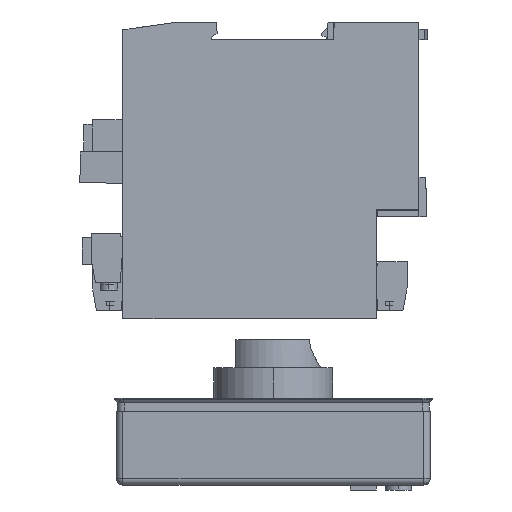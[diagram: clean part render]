
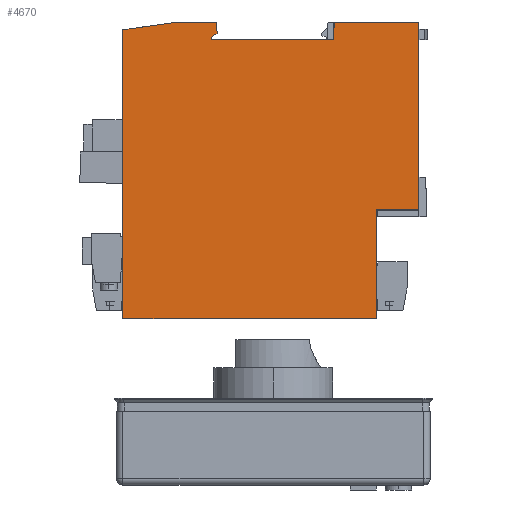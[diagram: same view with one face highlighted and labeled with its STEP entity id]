
A CAD part, left-side view. The second image highlights one B-rep face of the part: STEP entity #4670.
In plain terms, the highlighted planar face has unit normal (-1, 0, 0).
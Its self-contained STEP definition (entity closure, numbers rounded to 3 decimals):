
#1565=DIRECTION('',(0.,0.,-1.));
#1566=VECTOR('',#1565,57.32);
#1567=CARTESIAN_POINT('',(172.343,12.24,
-0.171));
#1568=LINE('',#1567,#1566);
#1569=DIRECTION('',(0.,1.,0.));
#1570=VECTOR('',#1569,12.974);
#1571=CARTESIAN_POINT('',(172.344,12.252,-57.491));
#1572=LINE('',#1571,#1570);
#1573=DIRECTION('',(0.,0.,-1.));
#1574=VECTOR('',#1573,33.43);
#1575=CARTESIAN_POINT('',(172.343,25.226,-57.491));
#1576=LINE('',#1575,#1574);
#1577=DIRECTION('',(0.,1.,0.));
#1578=VECTOR('',#1577,77.5);
#1579=CARTESIAN_POINT('',(172.343,25.226,-90.921));
#1580=LINE('',#1579,#1578);
#1581=DIRECTION('',(0.,0.,1.));
#1582=VECTOR('',#1581,88.361);
#1583=CARTESIAN_POINT('',(172.343,102.726,-90.921));
#1584=LINE('',#1583,#1582);
#1585=DIRECTION('',(0.,-0.99,0.139));
#1586=VECTOR('',#1585,17.167);
#1587=CARTESIAN_POINT('',(172.343,102.726,-2.56));
#1588=LINE('',#1587,#1586);
#1589=DIRECTION('',(0.,-1.,0.));
#1590=VECTOR('',#1589,11.7);
#1591=CARTESIAN_POINT('',(172.343,85.726,
-0.171));
#1592=LINE('',#1591,#1590);
#1593=DIRECTION('',(0.,-0.019,-1.));
#1594=VECTOR('',#1593,3.424);
#1595=CARTESIAN_POINT('',(172.343,74.026,
-0.171));
#1596=LINE('',#1595,#1594);
#1597=DIRECTION('',(0.,0.819,-0.574));
#1598=VECTOR('',#1597,2.191);
#1599=CARTESIAN_POINT('',(172.343,73.96,-3.595));
#1600=LINE('',#1599,#1598);
#1601=DIRECTION('',(0.,-0.035,-0.999));
#1602=VECTOR('',#1601,0.82);
#1603=CARTESIAN_POINT('',(172.343,75.754,-4.851));
#1604=LINE('',#1603,#1602);
#1605=DIRECTION('',(0.,-1.,0.));
#1606=VECTOR('',#1605,37.5);
#1607=CARTESIAN_POINT('',(172.343,75.726,-5.671));
#1608=LINE('',#1607,#1606);
#1609=DIRECTION('',(0.,0.,1.));
#1610=VECTOR('',#1609,2.9);
#1611=CARTESIAN_POINT('',(172.343,38.226,-5.671));
#1612=LINE('',#1611,#1610);
#1613=DIRECTION('',(0.,-0.017,1.));
#1614=VECTOR('',#1613,2.6);
#1615=CARTESIAN_POINT('',(172.343,38.226,-2.771));
#1616=LINE('',#1615,#1614);
#1617=DIRECTION('',(0.,-1.,0.));
#1618=VECTOR('',#1617,25.942);
#1619=CARTESIAN_POINT('',(172.343,38.182,
-0.171));
#1620=LINE('',#1619,#1618);
#2359=CARTESIAN_POINT('',(172.343,25.226,-57.491));
#2360=CARTESIAN_POINT('',(172.343,25.226,-90.921));
#2361=VERTEX_POINT('',#2359);
#2362=VERTEX_POINT('',#2360);
#2363=CARTESIAN_POINT('',(172.343,102.726,-90.921));
#2364=VERTEX_POINT('',#2363);
#2365=CARTESIAN_POINT('',(172.343,102.726,-2.56));
#2366=VERTEX_POINT('',#2365);
#2367=CARTESIAN_POINT('',(172.343,85.726,
-0.171));
#2368=VERTEX_POINT('',#2367);
#2369=CARTESIAN_POINT('',(172.343,74.026,
-0.171));
#2370=VERTEX_POINT('',#2369);
#2371=CARTESIAN_POINT('',(172.343,73.96,-3.595));
#2372=VERTEX_POINT('',#2371);
#2373=CARTESIAN_POINT('',(172.343,75.754,-4.851));
#2374=VERTEX_POINT('',#2373);
#2375=CARTESIAN_POINT('',(172.343,75.726,-5.671));
#2376=VERTEX_POINT('',#2375);
#2377=CARTESIAN_POINT('',(172.343,38.226,-5.671));
#2378=VERTEX_POINT('',#2377);
#2379=CARTESIAN_POINT('',(172.343,38.226,-2.771));
#2380=VERTEX_POINT('',#2379);
#2381=CARTESIAN_POINT('',(172.343,38.182,
-0.171));
#2382=VERTEX_POINT('',#2381);
#2383=CARTESIAN_POINT('',(172.343,12.24,
-0.171));
#2384=VERTEX_POINT('',#2383);
#2655=CARTESIAN_POINT('',(172.344,12.252,-57.491));
#2656=VERTEX_POINT('',#2655);
#4649=CARTESIAN_POINT('',(172.343,57.476,-29.371));
#4650=DIRECTION('',(1.,0.,0.));
#4651=DIRECTION('',(0.,0.,-1.));
#4652=AXIS2_PLACEMENT_3D('',#4649,#4650,#4651);
#4653=PLANE('',#4652);
#4654=ORIENTED_EDGE('',*,*,#3082,.T.);
#4655=ORIENTED_EDGE('',*,*,#3535,.T.);
#4656=ORIENTED_EDGE('',*,*,#3548,.T.);
#4657=ORIENTED_EDGE('',*,*,#3640,.T.);
#4658=ORIENTED_EDGE('',*,*,#3680,.T.);
#4659=ORIENTED_EDGE('',*,*,#3791,.T.);
#4660=ORIENTED_EDGE('',*,*,#3847,.T.);
#4661=ORIENTED_EDGE('',*,*,#4347,.T.);
#4662=ORIENTED_EDGE('',*,*,#4361,.T.);
#4663=ORIENTED_EDGE('',*,*,#4375,.T.);
#4664=ORIENTED_EDGE('',*,*,#4402,.T.);
#4665=ORIENTED_EDGE('',*,*,#4560,.T.);
#4666=ORIENTED_EDGE('',*,*,#4630,.T.);
#4667=ORIENTED_EDGE('',*,*,#4643,.T.);
#4668=EDGE_LOOP('',(#4654,#4655,#4656,#4657,#4658,#4659,#4660,#4661,#4662,#4663,
#4664,#4665,#4666,#4667));
#4669=FACE_OUTER_BOUND('',#4668,.F.);
#3082=EDGE_CURVE('',#2384,#2656,#1568,.T.);
#3535=EDGE_CURVE('',#2656,#2361,#1572,.T.);
#3548=EDGE_CURVE('',#2361,#2362,#1576,.T.);
#3640=EDGE_CURVE('',#2362,#2364,#1580,.T.);
#3680=EDGE_CURVE('',#2364,#2366,#1584,.T.);
#3791=EDGE_CURVE('',#2366,#2368,#1588,.T.);
#3847=EDGE_CURVE('',#2368,#2370,#1592,.T.);
#4347=EDGE_CURVE('',#2370,#2372,#1596,.T.);
#4361=EDGE_CURVE('',#2372,#2374,#1600,.T.);
#4375=EDGE_CURVE('',#2374,#2376,#1604,.T.);
#4402=EDGE_CURVE('',#2376,#2378,#1608,.T.);
#4560=EDGE_CURVE('',#2378,#2380,#1612,.T.);
#4630=EDGE_CURVE('',#2380,#2382,#1616,.T.);
#4643=EDGE_CURVE('',#2382,#2384,#1620,.T.);
#4670=ADVANCED_FACE('',(#4669),#4653,.F.);
